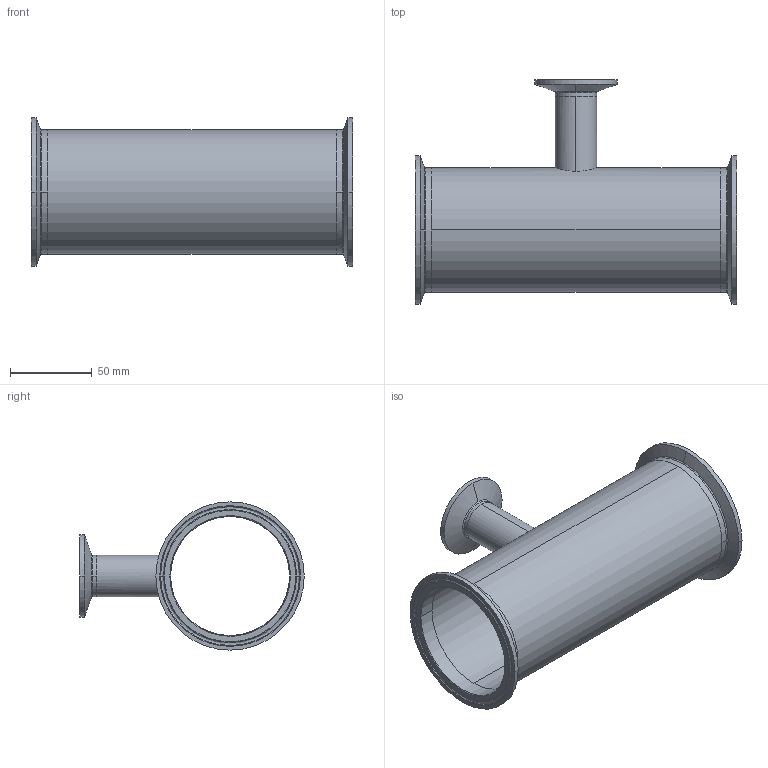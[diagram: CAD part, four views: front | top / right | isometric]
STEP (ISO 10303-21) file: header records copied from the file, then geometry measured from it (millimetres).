
FILE_DESCRIPTION (( 'STEP AP214' ), '1' );
FILE_NAME ('TEG7R6L3.0x1.0-...STEP', '2016-05-24T07:00:59', ( 'eran' ), ( '' ), 'SwSTEP 2.0', 'SolidWorks 2016', '' );
FILE_SCHEMA (( 'AUTOMOTIVE_DESIGN' ));
Length unit declared in the file: millimetre
Products named in the file (1): TEG7R6L3.0x1.0-..
Bounding box: 196.8 x 137.55 x 90.91 mm (x, y, z)
Volume: 104587.5 mm3; surface area: 112361.4 mm2
Topology: 4 solids, 4 shells, 86 faces, 214 edges, 140 vertices
Faces by surface type: bspline 30, cylinder 26, cone 18, plane 12
Entity records: 4763 total; most frequent: CARTESIAN_POINT 2649, DIRECTION 454, ORIENTED_EDGE 428, EDGE_CURVE 214, AXIS2_PLACEMENT_3D 205, CIRCLE 148, VERTEX_POINT 140, EDGE_LOOP 100
